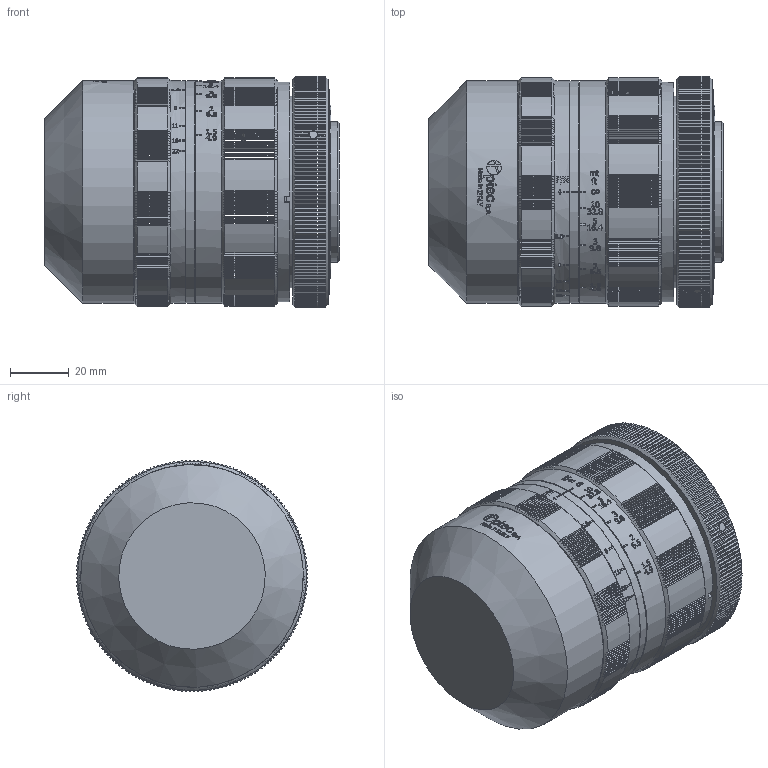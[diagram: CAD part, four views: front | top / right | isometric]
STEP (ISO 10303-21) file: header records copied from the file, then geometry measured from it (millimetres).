
FILE_DESCRIPTION((''),'2;1');
FILE_NAME('\\10.0.0.209\Doc Produ\Meccaniche\STP\A_2004\C0416\C0416_000\C0416_051.stp','2014-04-28T12:50:55',('mcilia'),(''),'Autodesk Inventor 2010','Autodesk Inventor 2010','');
FILE_SCHEMA(('AUTOMOTIVE_DESIGN { 1 0 10303 214 1 1 1 1 }'));
Length unit declared in the file: millimetre
Products named in the file (2): C0416_051_000 (Livello di dettaglio sostituto2); C0416_051
Assembly tree (1 placements, depth 2):
  C0416_051_000 (Livello di dettaglio sostituto2)
    C0416_051
Bounding box: 100.6 x 78.99 x 78.99 mm (x, y, z)
Surface area: 74476.8 mm2 (no closed solid volume)
Topology: 0 solids, 38 shells, 1106 faces, 5566 edges, 4154 vertices
Faces by surface type: plane 814, cylinder 275, cone 11, bspline 4, torus 1, sphere 1
Full cylindrical faces by diameter (mm): 1.567 x3, 48 x1, 65.5 x1, 67 x1, 75 x1, 76 x3
Entity records: 56728 total; most frequent: CARTESIAN_POINT 18041, ORIENTED_EDGE 8337, DIRECTION 6723, EDGE_CURVE 5529, VERTEX_POINT 4144, AXIS2_PLACEMENT_3D 2474, VECTOR 1775, LINE 1775
